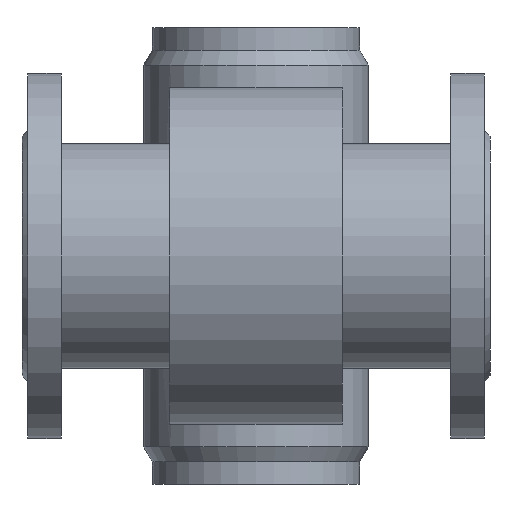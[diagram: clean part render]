
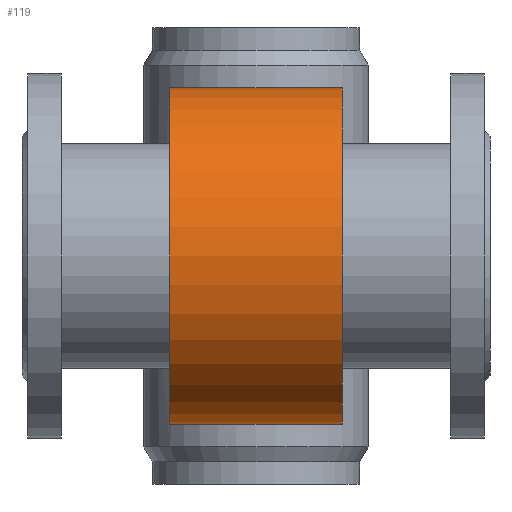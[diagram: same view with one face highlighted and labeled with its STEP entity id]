
A CAD part, front view. The second image highlights one B-rep face of the part: STEP entity #119.
In plain terms, the highlighted cylindrical face has radius 90 mm (diameter 180 mm), a full revolution.
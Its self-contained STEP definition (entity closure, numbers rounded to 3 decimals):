
#83=B_SPLINE_CURVE_WITH_KNOTS('',3,(#1415,#1416,#1417,#1418,#1419,#1420,
#1421,#1422,#1423,#1424,#1425,#1426,#1427,#1428,#1429,#1430,#1431,#1432,
#1433,#1434,#1435,#1436,#1437,#1438,#1439,#1440,#1441,#1442,#1443,#1444,
#1445,#1446,#1447,#1448),.UNSPECIFIED.,.T.,.F.,(2,2,2,2,2,2,2,2,2,2,2,2,
2,2,2,2,2,2,2),(-0.063,0.,0.063,0.125,0.188,0.25,0.313,0.375,0.438,
0.5,0.563,0.625,0.688,0.75,0.813,0.875,0.938,1.,1.063),
 .UNSPECIFIED.);
#119=ADVANCED_FACE('',(#238,#239,#240),#170,.T.);
#170=CYLINDRICAL_SURFACE('',#905,90.);
#238=FACE_BOUND('',#368,.T.);
#239=FACE_BOUND('',#369,.T.);
#240=FACE_BOUND('',#370,.T.);
#368=EDGE_LOOP('',(#509));
#369=EDGE_LOOP('',(#510));
#370=EDGE_LOOP('',(#511));
#509=ORIENTED_EDGE('',*,*,#735,.T.);
#510=ORIENTED_EDGE('',*,*,#736,.F.);
#511=ORIENTED_EDGE('',*,*,#724,.T.);
#650=VERTEX_POINT('',#1449);
#661=VERTEX_POINT('',#1477);
#662=VERTEX_POINT('',#1479);
#724=EDGE_CURVE('',#650,#650,#83,.T.);
#735=EDGE_CURVE('',#661,#661,#807,.T.);
#736=EDGE_CURVE('',#662,#662,#808,.T.);
#807=CIRCLE('',#903,90.);
#808=CIRCLE('',#904,90.);
#903=AXIS2_PLACEMENT_3D('',#1476,#1108,#1109);
#904=AXIS2_PLACEMENT_3D('',#1478,#1110,#1111);
#905=AXIS2_PLACEMENT_3D('',#1480,#1112,#1113);
#1108=DIRECTION('',(-1.,0.,0.));
#1109=DIRECTION('',(0.,-1.,0.));
#1110=DIRECTION('',(-1.,0.,0.));
#1111=DIRECTION('',(0.,-1.,0.));
#1112=DIRECTION('',(-1.,0.,0.));
#1113=DIRECTION('',(0.,-1.,0.));
#1415=CARTESIAN_POINT('',(3.657,85.696,27.5));
#1416=CARTESIAN_POINT('',(-3.657,85.696,27.5));
#1417=CARTESIAN_POINT('',(-7.243,85.938,26.772));
#1418=CARTESIAN_POINT('',(-13.892,86.752,24.005));
#1419=CARTESIAN_POINT('',(-16.928,87.317,21.964));
#1420=CARTESIAN_POINT('',(-21.967,88.432,16.923));
#1421=CARTESIAN_POINT('',(-24.012,88.987,13.873));
#1422=CARTESIAN_POINT('',(-26.764,89.768,7.263));
#1423=CARTESIAN_POINT('',(-27.498,89.999,3.63));
#1424=CARTESIAN_POINT('',(-27.502,90.001,-3.594));
#1425=CARTESIAN_POINT('',(-26.785,89.774,-7.207));
#1426=CARTESIAN_POINT('',(-24.006,88.985,-13.895));
#1427=CARTESIAN_POINT('',(-21.979,88.435,-16.913));
#1428=CARTESIAN_POINT('',(-16.904,87.312,-21.986));
#1429=CARTESIAN_POINT('',(-13.873,86.749,-24.014));
#1430=CARTESIAN_POINT('',(-7.248,85.939,-26.769));
#1431=CARTESIAN_POINT('',(-3.615,85.696,-27.498));
#1432=CARTESIAN_POINT('',(3.591,85.695,-27.502));
#1433=CARTESIAN_POINT('',(7.23,85.937,-26.774));
#1434=CARTESIAN_POINT('',(13.861,86.747,-24.021));
#1435=CARTESIAN_POINT('',(16.895,87.31,-21.993));
#1436=CARTESIAN_POINT('',(21.974,88.433,-16.92));
#1437=CARTESIAN_POINT('',(23.992,88.981,-13.921));
#1438=CARTESIAN_POINT('',(26.783,89.773,-7.219));
#1439=CARTESIAN_POINT('',(27.499,90.,-3.632));
#1440=CARTESIAN_POINT('',(27.501,90.,3.618));
#1441=CARTESIAN_POINT('',(26.771,89.77,7.242));
#1442=CARTESIAN_POINT('',(24.016,88.987,13.869));
#1443=CARTESIAN_POINT('',(21.971,88.433,16.918));
#1444=CARTESIAN_POINT('',(16.93,87.318,21.962));
#1445=CARTESIAN_POINT('',(13.894,86.752,24.002));
#1446=CARTESIAN_POINT('',(7.261,85.94,26.767));
#1447=CARTESIAN_POINT('',(3.657,85.696,27.5));
#1448=CARTESIAN_POINT('',(-3.657,85.696,27.5));
#1449=CARTESIAN_POINT('',(0.,85.696,27.5));
#1476=CARTESIAN_POINT('',(46.,0.,0.));
#1477=CARTESIAN_POINT('',(46.,-90.,0.));
#1478=CARTESIAN_POINT('',(-46.,0.,0.));
#1479=CARTESIAN_POINT('',(-46.,-90.,0.));
#1480=CARTESIAN_POINT('',(-100.,0.,0.));
